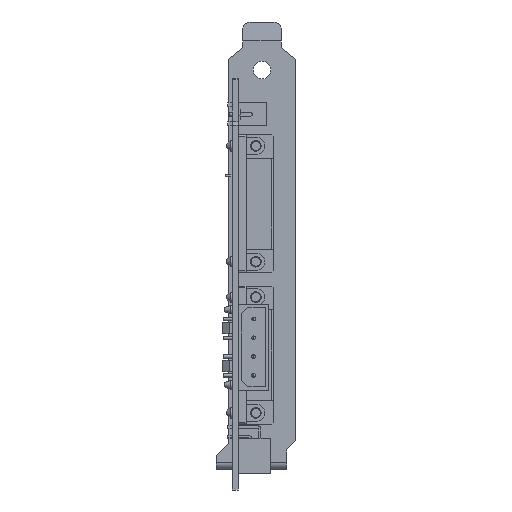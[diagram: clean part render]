
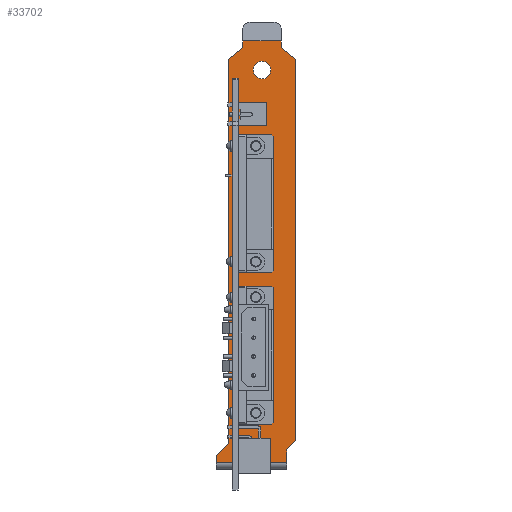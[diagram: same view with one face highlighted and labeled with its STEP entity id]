
A CAD part, front view. The second image highlights one B-rep face of the part: STEP entity #33702.
In plain terms, the highlighted planar face has unit normal (0, -1, 0).
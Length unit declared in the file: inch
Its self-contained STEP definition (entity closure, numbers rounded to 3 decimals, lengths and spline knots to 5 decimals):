
#4085=DIRECTION('',(0.,0.,1.));
#4086=VECTOR('',#4085,1.46693);
#4087=CARTESIAN_POINT('',(0.062,0.325,-1.701));
#4088=LINE('',#4087,#4086);
#4089=DIRECTION('',(1.,0.,0.));
#4090=VECTOR('',#4089,0.35236);
#4091=CARTESIAN_POINT('',(0.062,0.325,-0.23407));
#4092=LINE('',#4091,#4090);
#4105=DIRECTION('',(1.,0.,0.));
#4106=VECTOR('',#4105,0.412);
#4107=CARTESIAN_POINT('',(0.10801,0.325,0.76418));
#4108=LINE('',#4107,#4106);
#4109=DIRECTION('',(0.,0.,-1.));
#4110=VECTOR('',#4109,0.074);
#4111=CARTESIAN_POINT('',(0.52001,0.325,0.76418));
#4112=LINE('',#4111,#4110);
#4113=DIRECTION('',(-0.788,0.,0.616));
#4114=VECTOR('',#4113,0.1967);
#4115=CARTESIAN_POINT('',(0.67501,0.325,0.56908));
#4116=LINE('',#4115,#4114);
#4117=DIRECTION('',(0.707,0.,0.707));
#4118=VECTOR('',#4117,0.14142);
#4119=CARTESIAN_POINT('',(0.57501,0.325,-3.58282));
#4120=LINE('',#4119,#4118);
#4121=DIRECTION('',(0.,0.,1.));
#4122=VECTOR('',#4121,0.137);
#4123=CARTESIAN_POINT('',(0.57501,0.325,-3.71982));
#4124=LINE('',#4123,#4122);
#4125=DIRECTION('',(-1.,0.,0.));
#4126=VECTOR('',#4125,0.75);
#4127=CARTESIAN_POINT('',(0.57501,0.325,-3.71982));
#4128=LINE('',#4127,#4126);
#4129=DIRECTION('',(-0.707,0.,-0.707));
#4130=VECTOR('',#4129,0.18102);
#4131=CARTESIAN_POINT('',(-0.04699,0.325,-3.51382));
#4132=LINE('',#4131,#4130);
#4133=DIRECTION('',(0.,0.,-1.));
#4134=VECTOR('',#4133,4.0829);
#4135=CARTESIAN_POINT('',(-0.04699,0.325,0.56908));
#4136=LINE('',#4135,#4134);
#4137=DIRECTION('',(-0.788,0.,-0.616));
#4138=VECTOR('',#4137,0.1967);
#4139=CARTESIAN_POINT('',(0.10801,0.325,0.69018));
#4140=LINE('',#4139,#4138);
#4141=DIRECTION('',(0.,0.,-1.));
#4142=VECTOR('',#4141,0.074);
#4143=CARTESIAN_POINT('',(0.10801,0.325,0.76418));
#4144=LINE('',#4143,#4142);
#4145=CARTESIAN_POINT('',(0.31401,0.325,0.45318));
#4146=DIRECTION('',(0.,1.,0.));
#4147=DIRECTION('',(0.,0.,1.));
#4148=AXIS2_PLACEMENT_3D('',#4145,#4146,#4147);
#4150=CARTESIAN_POINT('',(0.31401,0.325,0.45318));
#4151=DIRECTION('',(0.,1.,0.));
#4152=DIRECTION('',(0.,0.,-1.));
#4153=AXIS2_PLACEMENT_3D('',#4150,#4151,#4152);
#4155=CARTESIAN_POINT('',(0.23901,0.325,-0.01482));
#4156=DIRECTION('',(0.,1.,0.));
#4157=DIRECTION('',(0.,0.,-1.));
#4158=AXIS2_PLACEMENT_3D('',#4155,#4156,#4157);
#4160=CARTESIAN_POINT('',(0.23901,0.325,-0.01482));
#4161=DIRECTION('',(0.,1.,0.));
#4162=DIRECTION('',(0.,0.,1.));
#4163=AXIS2_PLACEMENT_3D('',#4160,#4161,#4162);
#4211=DIRECTION('',(0.,0.,1.));
#4212=VECTOR('',#4211,0.078);
#4213=CARTESIAN_POINT('',(-0.17499,0.325,-3.71982));
#4214=LINE('',#4213,#4212);
#4563=DIRECTION('',(0.,0.,1.));
#4564=VECTOR('',#4563,4.0519);
#4565=CARTESIAN_POINT('',(0.67501,0.325,-3.48282));
#4566=LINE('',#4565,#4564);
#7065=DIRECTION('',(-1.,0.,0.));
#7066=VECTOR('',#7065,0.35236);
#7067=CARTESIAN_POINT('',(0.41436,0.325,-3.30793));
#7068=LINE('',#7067,#7066);
#7089=DIRECTION('',(0.,0.,1.));
#7090=VECTOR('',#7089,1.46693);
#7091=CARTESIAN_POINT('',(0.062,0.325,-3.30793));
#7092=LINE('',#7091,#7090);
#7093=DIRECTION('',(1.,0.,0.));
#7094=VECTOR('',#7093,0.35236);
#7095=CARTESIAN_POINT('',(0.062,0.325,-1.841));
#7096=LINE('',#7095,#7094);
#7109=DIRECTION('',(-0.707,0.,0.707));
#7110=VECTOR('',#7109,0.02784);
#7111=CARTESIAN_POINT('',(0.43405,0.325,-1.86069));
#7112=LINE('',#7111,#7110);
#7113=DIRECTION('',(0.,0.,-1.));
#7114=VECTOR('',#7113,1.42756);
#7115=CARTESIAN_POINT('',(0.43405,0.325,-1.86069));
#7116=LINE('',#7115,#7114);
#7137=DIRECTION('',(-0.707,0.,-0.707));
#7138=VECTOR('',#7137,0.02784);
#7139=CARTESIAN_POINT('',(0.43405,0.325,-3.28824));
#7140=LINE('',#7139,#7138);
#7621=DIRECTION('',(-1.,0.,0.));
#7622=VECTOR('',#7621,0.35236);
#7623=CARTESIAN_POINT('',(0.41436,0.325,-1.701));
#7624=LINE('',#7623,#7622);
#7813=DIRECTION('',(-0.707,0.,0.707));
#7814=VECTOR('',#7813,0.02784);
#7815=CARTESIAN_POINT('',(0.43405,0.325,-0.25376));
#7816=LINE('',#7815,#7814);
#7817=DIRECTION('',(0.,0.,-1.));
#7818=VECTOR('',#7817,1.42756);
#7819=CARTESIAN_POINT('',(0.43405,0.325,-0.25376));
#7820=LINE('',#7819,#7818);
#7841=DIRECTION('',(-0.707,0.,-0.707));
#7842=VECTOR('',#7841,0.02784);
#7843=CARTESIAN_POINT('',(0.43405,0.325,-1.68131));
#7844=LINE('',#7843,#7842);
#30112=CARTESIAN_POINT('',(-0.17499,0.325,-3.71982));
#30114=VERTEX_POINT('',#30112);
#30115=CARTESIAN_POINT('',(0.57501,0.325,-3.71982));
#30117=VERTEX_POINT('',#30115);
#30119=CARTESIAN_POINT('',(0.57501,0.325,-3.58282));
#30120=VERTEX_POINT('',#30119);
#30121=CARTESIAN_POINT('',(0.67501,0.325,-3.48282));
#30122=VERTEX_POINT('',#30121);
#30123=CARTESIAN_POINT('',(0.10801,0.325,0.69018));
#30124=CARTESIAN_POINT('',(-0.04699,0.325,0.56908));
#30125=VERTEX_POINT('',#30123);
#30126=VERTEX_POINT('',#30124);
#30127=CARTESIAN_POINT('',(-0.04699,0.325,-3.51382));
#30128=VERTEX_POINT('',#30127);
#30129=CARTESIAN_POINT('',(-0.17499,0.325,-3.64182));
#30130=VERTEX_POINT('',#30129);
#30131=CARTESIAN_POINT('',(0.67501,0.325,0.56908));
#30132=CARTESIAN_POINT('',(0.52001,0.325,0.69018));
#30133=VERTEX_POINT('',#30131);
#30134=VERTEX_POINT('',#30132);
#30243=CARTESIAN_POINT('',(0.31401,0.325,0.54668));
#30244=CARTESIAN_POINT('',(0.31401,0.325,0.35968));
#30245=VERTEX_POINT('',#30243);
#30246=VERTEX_POINT('',#30244);
#30247=CARTESIAN_POINT('',(0.10801,0.325,0.76418));
#30248=VERTEX_POINT('',#30247);
#30249=CARTESIAN_POINT('',(0.52001,0.325,0.76418));
#30250=VERTEX_POINT('',#30249);
#30299=CARTESIAN_POINT('',(0.23901,0.325,-0.11232));
#30300=CARTESIAN_POINT('',(0.23901,0.325,0.08268));
#30301=VERTEX_POINT('',#30299);
#30302=VERTEX_POINT('',#30300);
#30327=CARTESIAN_POINT('',(0.41436,0.325,-3.30793));
#30328=CARTESIAN_POINT('',(0.062,0.325,-3.30793));
#30329=VERTEX_POINT('',#30327);
#30330=VERTEX_POINT('',#30328);
#30331=CARTESIAN_POINT('',(0.062,0.325,-1.841));
#30332=VERTEX_POINT('',#30331);
#30333=CARTESIAN_POINT('',(0.41436,0.325,-1.841));
#30334=VERTEX_POINT('',#30333);
#30335=CARTESIAN_POINT('',(0.43405,0.325,-1.86069));
#30336=CARTESIAN_POINT('',(0.43405,0.325,-3.28824));
#30337=VERTEX_POINT('',#30335);
#30338=VERTEX_POINT('',#30336);
#30363=CARTESIAN_POINT('',(0.41436,0.325,-1.701));
#30364=CARTESIAN_POINT('',(0.062,0.325,-1.701));
#30365=VERTEX_POINT('',#30363);
#30366=VERTEX_POINT('',#30364);
#30367=CARTESIAN_POINT('',(0.062,0.325,-0.23407));
#30368=VERTEX_POINT('',#30367);
#30369=CARTESIAN_POINT('',(0.41436,0.325,-0.23407));
#30370=VERTEX_POINT('',#30369);
#30371=CARTESIAN_POINT('',(0.43405,0.325,-0.25376));
#30372=CARTESIAN_POINT('',(0.43405,0.325,-1.68131));
#30373=VERTEX_POINT('',#30371);
#30374=VERTEX_POINT('',#30372);
#33633=CARTESIAN_POINT('',(0.67501,0.325,-3.71982));
#33634=DIRECTION('',(0.,1.,0.));
#33635=DIRECTION('',(0.,0.,1.));
#33636=AXIS2_PLACEMENT_3D('',#33633,#33634,#33635);
#33637=PLANE('',#33636);
#33639=ORIENTED_EDGE('',*,*,#33638,.T.);
#33641=ORIENTED_EDGE('',*,*,#33640,.T.);
#33643=ORIENTED_EDGE('',*,*,#33642,.F.);
#33645=ORIENTED_EDGE('',*,*,#33644,.F.);
#33647=ORIENTED_EDGE('',*,*,#33646,.F.);
#33649=ORIENTED_EDGE('',*,*,#33648,.F.);
#33651=ORIENTED_EDGE('',*,*,#33650,.T.);
#33653=ORIENTED_EDGE('',*,*,#33652,.T.);
#33655=ORIENTED_EDGE('',*,*,#33654,.F.);
#33657=ORIENTED_EDGE('',*,*,#33656,.F.);
#33659=ORIENTED_EDGE('',*,*,#33658,.F.);
#33661=ORIENTED_EDGE('',*,*,#33660,.F.);
#33662=EDGE_LOOP('',(#33639,#33641,#33643,#33645,#33647,#33649,#33651,#33653,
#33655,#33657,#33659,#33661));
#33663=FACE_OUTER_BOUND('',#33662,.F.);
#33665=ORIENTED_EDGE('',*,*,#33664,.F.);
#33667=ORIENTED_EDGE('',*,*,#33666,.F.);
#33668=EDGE_LOOP('',(#33665,#33667));
#33669=FACE_BOUND('',#33668,.F.);
#33671=ORIENTED_EDGE('',*,*,#33670,.F.);
#33673=ORIENTED_EDGE('',*,*,#33672,.F.);
#33674=EDGE_LOOP('',(#33671,#33673));
#33675=FACE_BOUND('',#33674,.F.);
#33677=ORIENTED_EDGE('',*,*,#33676,.F.);
#33679=ORIENTED_EDGE('',*,*,#33678,.F.);
#33681=ORIENTED_EDGE('',*,*,#33680,.F.);
#33683=ORIENTED_EDGE('',*,*,#33682,.T.);
#33685=ORIENTED_EDGE('',*,*,#33684,.F.);
#33687=ORIENTED_EDGE('',*,*,#33686,.F.);
#33688=EDGE_LOOP('',(#33677,#33679,#33681,#33683,#33685,#33687));
#33689=FACE_BOUND('',#33688,.F.);
#33691=ORIENTED_EDGE('',*,*,#33690,.F.);
#33693=ORIENTED_EDGE('',*,*,#33692,.F.);
#33695=ORIENTED_EDGE('',*,*,#33694,.F.);
#33697=ORIENTED_EDGE('',*,*,#33696,.T.);
#33698=ORIENTED_EDGE('',*,*,#33618,.F.);
#33699=ORIENTED_EDGE('',*,*,#33608,.F.);
#33700=EDGE_LOOP('',(#33691,#33693,#33695,#33697,#33698,#33699));
#33701=FACE_BOUND('',#33700,.F.);
#33702=ADVANCED_FACE('',(#33663,#33669,#33675,#33689,#33701),#33637,.F.);
#4149=CIRCLE('',#4148,0.0935);
#4154=CIRCLE('',#4153,0.0935);
#4159=CIRCLE('',#4158,0.0975);
#4164=CIRCLE('',#4163,0.0975);
#33608=EDGE_CURVE('',#30366,#30368,#4088,.T.);
#33618=EDGE_CURVE('',#30368,#30370,#4092,.T.);
#33638=EDGE_CURVE('',#30248,#30250,#4108,.T.);
#33640=EDGE_CURVE('',#30250,#30134,#4112,.T.);
#33642=EDGE_CURVE('',#30133,#30134,#4116,.T.);
#33644=EDGE_CURVE('',#30122,#30133,#4566,.T.);
#33646=EDGE_CURVE('',#30120,#30122,#4120,.T.);
#33648=EDGE_CURVE('',#30117,#30120,#4124,.T.);
#33650=EDGE_CURVE('',#30117,#30114,#4128,.T.);
#33652=EDGE_CURVE('',#30114,#30130,#4214,.T.);
#33654=EDGE_CURVE('',#30128,#30130,#4132,.T.);
#33656=EDGE_CURVE('',#30126,#30128,#4136,.T.);
#33658=EDGE_CURVE('',#30125,#30126,#4140,.T.);
#33660=EDGE_CURVE('',#30248,#30125,#4144,.T.);
#33664=EDGE_CURVE('',#30245,#30246,#4149,.T.);
#33666=EDGE_CURVE('',#30246,#30245,#4154,.T.);
#33670=EDGE_CURVE('',#30301,#30302,#4159,.T.);
#33672=EDGE_CURVE('',#30302,#30301,#4164,.T.);
#33676=EDGE_CURVE('',#30329,#30330,#7068,.T.);
#33678=EDGE_CURVE('',#30338,#30329,#7140,.T.);
#33680=EDGE_CURVE('',#30337,#30338,#7116,.T.);
#33682=EDGE_CURVE('',#30337,#30334,#7112,.T.);
#33684=EDGE_CURVE('',#30332,#30334,#7096,.T.);
#33686=EDGE_CURVE('',#30330,#30332,#7092,.T.);
#33690=EDGE_CURVE('',#30365,#30366,#7624,.T.);
#33692=EDGE_CURVE('',#30374,#30365,#7844,.T.);
#33694=EDGE_CURVE('',#30373,#30374,#7820,.T.);
#33696=EDGE_CURVE('',#30373,#30370,#7816,.T.);
